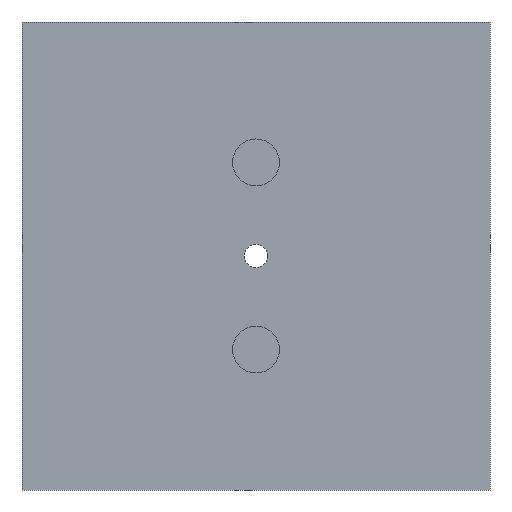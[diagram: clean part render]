
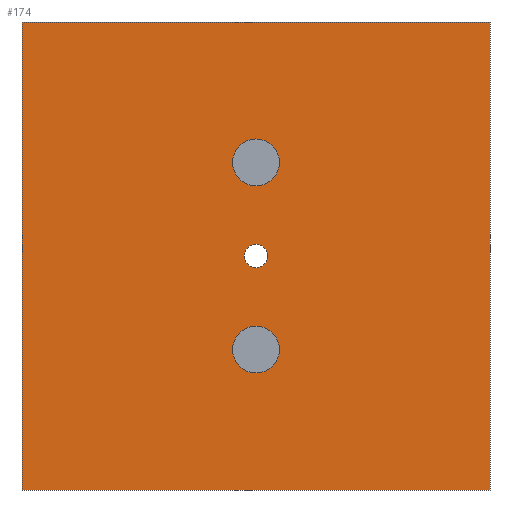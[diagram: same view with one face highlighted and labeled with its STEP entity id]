
A CAD part, front view. The second image highlights one B-rep face of the part: STEP entity #174.
In plain terms, the highlighted planar face has unit normal (0, -1, 0).
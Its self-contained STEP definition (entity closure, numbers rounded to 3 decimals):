
#15=FACE_BOUND('',#44,.T.);
#16=FACE_BOUND('',#45,.T.);
#17=FACE_BOUND('',#46,.T.);
#21=PLANE('',#205);
#32=FACE_OUTER_BOUND('',#43,.T.);
#43=EDGE_LOOP('',(#138,#139,#140,#141));
#44=EDGE_LOOP('',(#142));
#45=EDGE_LOOP('',(#143));
#46=EDGE_LOOP('',(#144));
#56=LINE('',#286,#71);
#57=LINE('',#288,#72);
#58=LINE('',#290,#73);
#59=LINE('',#291,#74);
#71=VECTOR('',#240,10.);
#72=VECTOR('',#241,10.);
#73=VECTOR('',#242,10.);
#74=VECTOR('',#243,10.);
#84=CIRCLE('',#196,0.5);
#86=CIRCLE('',#200,0.5);
#87=CIRCLE('',#203,0.25);
#90=VERTEX_POINT('',#266);
#92=VERTEX_POINT('',#273);
#93=VERTEX_POINT('',#278);
#95=VERTEX_POINT('',#284);
#96=VERTEX_POINT('',#285);
#97=VERTEX_POINT('',#287);
#98=VERTEX_POINT('',#289);
#105=EDGE_CURVE('',#90,#90,#84,.T.);
#108=EDGE_CURVE('',#92,#92,#86,.T.);
#109=EDGE_CURVE('',#93,#93,#87,.T.);
#112=EDGE_CURVE('',#95,#96,#56,.T.);
#113=EDGE_CURVE('',#96,#97,#57,.T.);
#114=EDGE_CURVE('',#98,#97,#58,.T.);
#115=EDGE_CURVE('',#95,#98,#59,.T.);
#138=ORIENTED_EDGE('',*,*,#112,.T.);
#139=ORIENTED_EDGE('',*,*,#113,.T.);
#140=ORIENTED_EDGE('',*,*,#114,.F.);
#141=ORIENTED_EDGE('',*,*,#115,.F.);
#142=ORIENTED_EDGE('',*,*,#105,.T.);
#143=ORIENTED_EDGE('',*,*,#108,.T.);
#144=ORIENTED_EDGE('',*,*,#109,.T.);
#174=ADVANCED_FACE('',(#32,#15,#16,#17),#21,.T.);
#196=AXIS2_PLACEMENT_3D('',#268,#218,#219);
#200=AXIS2_PLACEMENT_3D('',#275,#227,#228);
#203=AXIS2_PLACEMENT_3D('',#279,#233,#234);
#205=AXIS2_PLACEMENT_3D('',#283,#238,#239);
#218=DIRECTION('center_axis',(0.,1.,0.));
#219=DIRECTION('ref_axis',(1.,0.,0.));
#227=DIRECTION('center_axis',(0.,1.,0.));
#228=DIRECTION('ref_axis',(1.,0.,0.));
#233=DIRECTION('center_axis',(0.,1.,0.));
#234=DIRECTION('ref_axis',(1.,0.,0.));
#238=DIRECTION('center_axis',(0.,-1.,0.));
#239=DIRECTION('ref_axis',(1.,0.,0.));
#240=DIRECTION('',(1.,0.,0.));
#241=DIRECTION('',(0.,0.,1.));
#242=DIRECTION('',(1.,0.,0.));
#243=DIRECTION('',(0.,0.,1.));
#266=CARTESIAN_POINT('',(-0.5,-5.25,3.));
#268=CARTESIAN_POINT('Origin',(0.,-5.25,3.));
#273=CARTESIAN_POINT('',(-0.5,-5.25,7.));
#275=CARTESIAN_POINT('Origin',(0.,-5.25,7.));
#278=CARTESIAN_POINT('',(-0.25,-5.25,5.));
#279=CARTESIAN_POINT('Origin',(0.,-5.25,5.));
#283=CARTESIAN_POINT('Origin',(-5.,-5.25,0.));
#284=CARTESIAN_POINT('',(-5.,-5.25,0.));
#285=CARTESIAN_POINT('',(5.,-5.25,0.));
#286=CARTESIAN_POINT('',(-5.,-5.25,0.));
#287=CARTESIAN_POINT('',(5.,-5.25,10.));
#288=CARTESIAN_POINT('',(5.,-5.25,0.));
#289=CARTESIAN_POINT('',(-5.,-5.25,10.));
#290=CARTESIAN_POINT('',(-5.,-5.25,10.));
#291=CARTESIAN_POINT('',(-5.,-5.25,0.));
